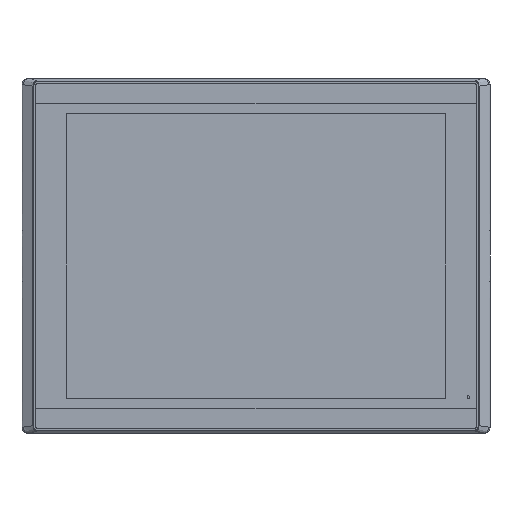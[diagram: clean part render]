
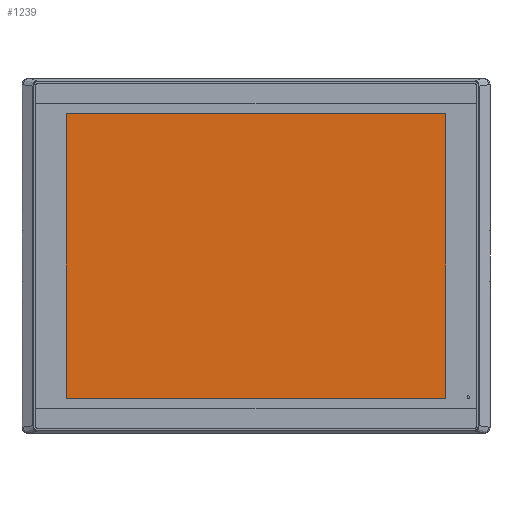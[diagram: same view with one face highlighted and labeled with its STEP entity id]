
A CAD part, top view. The second image highlights one B-rep face of the part: STEP entity #1239.
In plain terms, the highlighted planar face has unit normal (0, 0, 1).
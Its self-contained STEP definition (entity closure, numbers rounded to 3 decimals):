
#550=DIRECTION('',(0.,-1.,0.));
#551=VECTOR('',#550,228.7);
#552=CARTESIAN_POINT('',(-123.683,94.183,17.4));
#553=LINE('',#552,#551);
#554=DIRECTION('',(1.,0.,0.));
#555=VECTOR('',#554,304.7);
#556=CARTESIAN_POINT('',(-123.683,94.183,17.4));
#557=LINE('',#556,#555);
#570=DIRECTION('',(0.,-1.,0.));
#571=VECTOR('',#570,228.7);
#572=CARTESIAN_POINT('',(181.018,94.183,17.4));
#573=LINE('',#572,#571);
#582=DIRECTION('',(1.,0.,0.));
#583=VECTOR('',#582,304.7);
#584=CARTESIAN_POINT('',(-123.683,-134.518,17.4));
#585=LINE('',#584,#583);
#860=CARTESIAN_POINT('',(-123.683,94.183,17.4));
#861=VERTEX_POINT('',#860);
#862=CARTESIAN_POINT('',(-123.683,-134.518,17.4));
#863=VERTEX_POINT('',#862);
#864=CARTESIAN_POINT('',(181.018,-134.518,17.4));
#865=VERTEX_POINT('',#864);
#866=CARTESIAN_POINT('',(181.018,94.183,17.4));
#867=VERTEX_POINT('',#866);
#1225=CARTESIAN_POINT('',(28.668,-20.168,17.4));
#1226=DIRECTION('',(0.,0.,1.));
#1227=DIRECTION('',(1.,0.,0.));
#1228=AXIS2_PLACEMENT_3D('',#1225,#1226,#1227);
#1229=PLANE('',#1228);
#1230=ORIENTED_EDGE('',*,*,#1215,.F.);
#1232=ORIENTED_EDGE('',*,*,#1231,.T.);
#1234=ORIENTED_EDGE('',*,*,#1233,.T.);
#1236=ORIENTED_EDGE('',*,*,#1235,.F.);
#1237=EDGE_LOOP('',(#1230,#1232,#1234,#1236));
#1238=FACE_OUTER_BOUND('',#1237,.F.);
#1239=ADVANCED_FACE('',(#1238),#1229,.T.);
#1215=EDGE_CURVE('',#861,#863,#553,.T.);
#1231=EDGE_CURVE('',#861,#867,#557,.T.);
#1233=EDGE_CURVE('',#867,#865,#573,.T.);
#1235=EDGE_CURVE('',#863,#865,#585,.T.);
